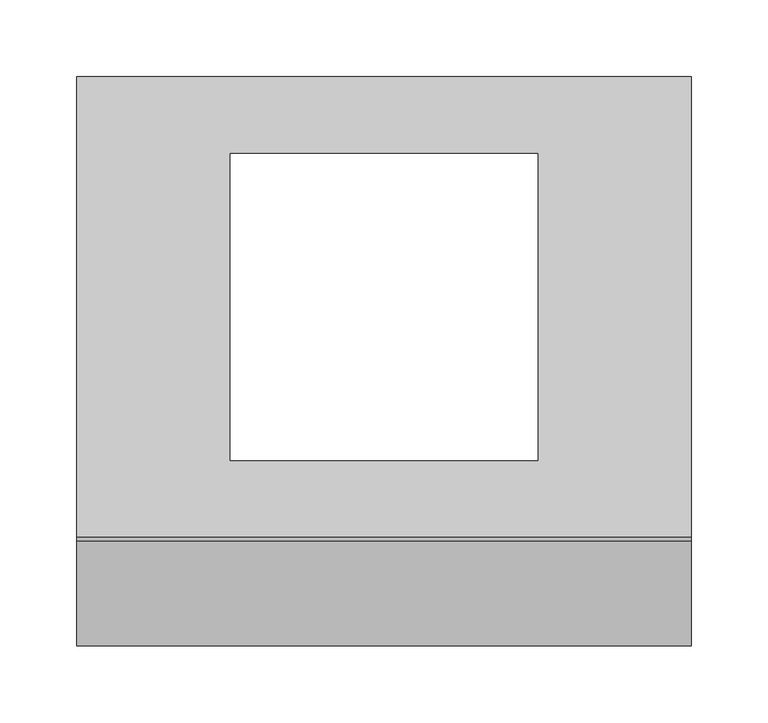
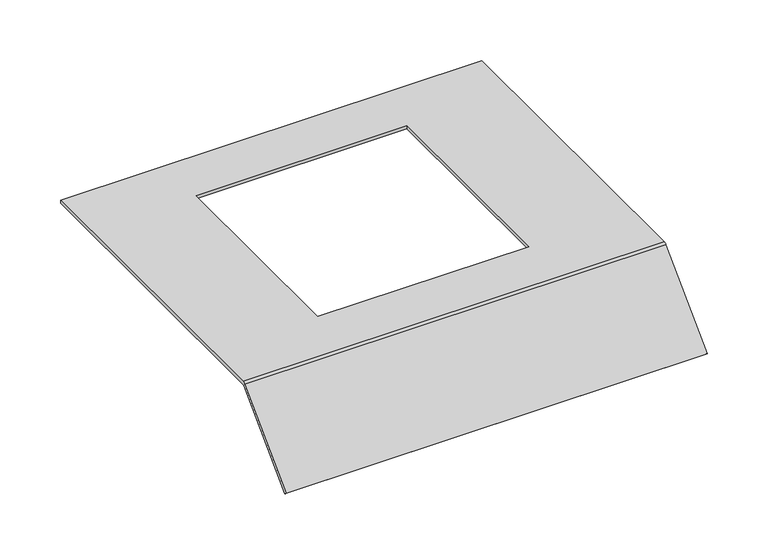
"""IFC4 building model written with IfcOpenShell, lengths in millimetres: proxy geometry, Electrical_Installation_Hager_Covers-With-Installation-Opening-Q06 : Electrical_Installation_Hager_Covers-With-Installation-Opening-Q06."""

import ifcopenshell
import ifcopenshell.guid

model = None  # the IFC model being written
_history = None  # IfcOwnerHistory: only IFC2X3 demands one
_inside = {}  # id of a spatial element -> (the spatial element, [elements in it])
_under = {}  # id of a project, library or spatial element -> (it, [spatial elements below it])
_declared = {}  # id of a project -> (the project, [libraries it declares])
_typed = {}  # id of a type object -> (the type object, [elements of that type])
_made_of = {}  # id of a material, layer set ... -> (it, [elements and type objects made of it])


def new_model(schema):
    """Start an empty IFC model of exactly this schema.

    Asked for "IFC4X3", IfcOpenShell would pick the latest addendum, in which some entities
    have other attributes; the version numbers below select the first issue.
    IFC2X3 requires an IfcOwnerHistory on every rooted entity: one is made here for all.
    """
    global model, _history
    if schema == "IFC4X3":
        model = ifcopenshell.file(schema_version=(4, 3, 0, 0))
    else:
        model = ifcopenshell.file(schema=schema)
    _inside.clear()
    _under.clear()
    _declared.clear()
    _typed.clear()
    _made_of.clear()
    _history = None
    if model.schema == "IFC2X3":
        org = make("IfcOrganization", Name="unknown")
        user = make(
            "IfcPersonAndOrganization",
            ThePerson=make("IfcPerson", FamilyName="unknown"),
            TheOrganization=org,
        )
        app = make(
            "IfcApplication",
            ApplicationDeveloper=org,
            Version="unknown",
            ApplicationFullName="unknown",
            ApplicationIdentifier="unknown",
        )
        _history = make(
            "IfcOwnerHistory",
            OwningUser=user,
            OwningApplication=app,
            ChangeAction="ADDED",
            CreationDate=0,
        )
    return model


def make(cls, **values):
    """One entity of the class cls with the attributes given. An attribute that is None is left unset."""
    return model.create_entity(
        cls, **{name: value for name, value in values.items() if value is not None}
    )


def rooted(cls, **values):
    """An entity with a GlobalId (a new one), such as an element, a storey or a relation."""
    return make(cls, GlobalId=ifcopenshell.guid.new(), OwnerHistory=_history, **values)


def si_unit(unit_type, name, prefix=None):
    """IfcSIUnit, for example si_unit("LENGTHUNIT", "METRE", prefix="MILLI")."""
    return make("IfcSIUnit", UnitType=unit_type, Prefix=prefix, Name=name)


def assignment(units):
    """IfcUnitAssignment: the units of a project."""
    return None if units is None else make("IfcUnitAssignment", Units=units)


def point(xyz):
    """IfcCartesianPoint."""
    return None if xyz is None else make("IfcCartesianPoint", Coordinates=xyz)


def direction(xyz):
    """IfcDirection."""
    return None if xyz is None else make("IfcDirection", DirectionRatios=xyz)


def frame(location, z_axis=None, x_axis=None):
    """IfcAxis2Placement3D, a coordinate frame: its origin and axes. An axis left out is left unset."""
    return make(
        "IfcAxis2Placement3D",
        Location=point(location),
        Axis=direction(z_axis),
        RefDirection=direction(x_axis),
    )


def origin():
    """The frame at (0, 0, 0) with its axes left unset."""
    return frame((0.0, 0.0, 0.0))


def place(relative_to, where):
    """IfcLocalPlacement: puts the frame where relative to a parent placement (None: the world)."""
    return make(
        "IfcLocalPlacement", PlacementRelTo=relative_to, RelativePlacement=where
    )


def context(
    kind, dimensions, precision=None, world=None, true_north=None, identifier=None
):
    """IfcGeometricRepresentationContext, for example the 3D "Model" context."""
    return make(
        "IfcGeometricRepresentationContext",
        ContextIdentifier=identifier,
        ContextType=kind,
        CoordinateSpaceDimension=dimensions,
        Precision=precision,
        WorldCoordinateSystem=world,
        TrueNorth=true_north,
    )


def project(units=None, contexts=None):
    """IfcProject with its units and contexts."""
    return rooted(
        "IfcProject",
        Name="project",
        RepresentationContexts=contexts,
        UnitsInContext=assignment(units),
    )


def spatial(cls, under=None, at=None, **own):
    """A site, building, storey or space (cls), placed at a placement, below another one or the project."""
    s = rooted(cls, ObjectPlacement=at, **own)
    if under is not None:
        _under.setdefault(under.id(), (under, []))[1].append(s)
    return s


def polyline(points):
    """IfcPolyline through the points."""
    return make("IfcPolyline", Points=[point(p) for p in points])


def circle_curve(where, radius):
    """IfcCircle in the frame where."""
    return make("IfcCircle", Position=where, Radius=radius)


def shape(context_of_items, identifier, shape_type, items):
    """IfcShapeRepresentation: the items that make up one representation, for example the "Body"."""
    return make(
        "IfcShapeRepresentation",
        ContextOfItems=context_of_items,
        RepresentationIdentifier=identifier,
        RepresentationType=shape_type,
        Items=items,
    )


def source(mapping_origin, context_of_items, identifier, shape_type, items):
    """IfcRepresentationMap: a shape defined once, which mapped items show again and again."""
    return make(
        "IfcRepresentationMap",
        MappingOrigin=mapping_origin,
        MappedRepresentation=shape(context_of_items, identifier, shape_type, items),
    )


def transform(
    local_origin,
    x_axis=None,
    y_axis=None,
    z_axis=None,
    scale=None,
    scale2=None,
    scale3=None,
    uniform=True,
):
    """IfcCartesianTransformationOperator3D, or its non-uniform kind. x_axis, y_axis, z_axis: its Axis1, 2, 3."""
    if uniform:
        return make(
            "IfcCartesianTransformationOperator3D",
            Axis1=direction(x_axis),
            Axis2=direction(y_axis),
            LocalOrigin=point(local_origin),
            Scale=scale,
            Axis3=direction(z_axis),
        )
    return make(
        "IfcCartesianTransformationOperator3DnonUniform",
        Axis1=direction(x_axis),
        Axis2=direction(y_axis),
        LocalOrigin=point(local_origin),
        Scale=scale,
        Axis3=direction(z_axis),
        Scale2=scale2,
        Scale3=scale3,
    )


def mapped(mapping_source, mapping_target):
    """IfcMappedItem: shows the shape of a source again, moved by a transform."""
    return make(
        "IfcMappedItem", MappingSource=mapping_source, MappingTarget=mapping_target
    )


def made_of(thing, what):
    """Note that an element or type object is made of a material, layer set ...; save() writes the relation."""
    if what is not None:
        _made_of.setdefault(what.id(), (what, []))[1].append(thing)
    return thing


def element(
    cls,
    number,
    at=None,
    inside=None,
    cuts=None,
    type_object=None,
    material=None,
    context=None,
    identifier="Body",
    shape_type=None,
    held_by="IfcProductDefinitionShape",
    body=None,
    shapes=None,
    **own,
):
    """One element of the class cls, such as IfcWall. Its Tag is "e" and its number.

    at: its placement. inside: the storey or other place that contains it. cuts: it is an
    opening in that element (IfcRelVoidsElement). A single representation is given by context,
    identifier, shape_type and body (its items); several are given by shapes. held_by: the class
    of the entity that holds the representations. save() writes the other relations.
    """
    e = rooted(cls, Tag="e%d" % number, ObjectPlacement=at, **own)
    if body is not None:
        shapes = [shape(context, identifier, shape_type, body)]
    if shapes is not None:
        e.Representation = make(held_by, Representations=shapes)
    if inside is not None:
        _inside.setdefault(inside.id(), (inside, []))[1].append(e)
    if cuts is not None:
        rooted(
            "IfcRelVoidsElement", RelatingBuildingElement=cuts, RelatedOpeningElement=e
        )
    if type_object is not None:
        _typed.setdefault(type_object.id(), (type_object, []))[1].append(e)
    return made_of(e, material)


def aggregate(whole, parts):
    """IfcRelAggregates: a whole, such as a stair, and the parts it consists of."""
    return rooted("IfcRelAggregates", RelatingObject=whole, RelatedObjects=parts)


def save(model, path):
    """Write the relations noted so far, then the file.

    IfcRelAggregates (storeys below a building ...), IfcRelContainedInSpatialStructure (elements
    in a storey), IfcRelDefinesByType, IfcRelAssociatesMaterial and IfcRelDeclares: one each for
    every whole, place, type object, material and project.
    """
    for whole, parts in _under.values():
        aggregate(whole, parts)
    for where, things in _inside.values():
        rooted(
            "IfcRelContainedInSpatialStructure",
            RelatedElements=things,
            RelatingStructure=where,
        )
    for kind, things in _typed.values():
        rooted("IfcRelDefinesByType", RelatedObjects=things, RelatingType=kind)
    for what, things in _made_of.values():
        rooted("IfcRelAssociatesMaterial", RelatedObjects=things, RelatingMaterial=what)
    for by, libraries in _declared.values():
        rooted("IfcRelDeclares", RelatingContext=by, RelatedDefinitions=libraries)
    model.write(path)


def plane_surface(at):
    """IfcPlane: the flat surface through the origin of the frame at, square to its z axis."""
    return make("IfcPlane", Position=at)


def cylinder_surface(at, radius):
    """IfcCylindricalSurface: all points at the distance radius from the z axis of the frame at."""
    return make("IfcCylindricalSurface", Position=at, Radius=radius)


def revolved_surface(curve, axis_point, axis_direction):
    """IfcSurfaceOfRevolution: the curve turned about the line through axis_point along axis_direction."""
    return make(
        "IfcSurfaceOfRevolution",
        SweptCurve=make("IfcArbitraryOpenProfileDef", ProfileType="CURVE", Curve=curve),
        AxisPosition=make("IfcAxis1Placement", Location=point(axis_point), Axis=direction(axis_direction)),
    )


def advanced_brep(points, edges, surfaces, faces):
    """IfcAdvancedBrep: a solid bounded by faces that lie on surfaces and meet in shared edges.

    An edge is (start, end): straight between two places in points (the first is 0);
    or (start, end, curve); or (start, end, curve, False) where it runs against its curve.
    A face is (place in surfaces, loops), or (place, loops, False) where it looks against
    its surface's normal. A loop lists edges by number (the first is 1), with a minus sign
    where the edge is run from its end to its start. The first loop is the outer one.
    """
    corners = [point(p) for p in points]
    vertices = [make("IfcVertexPoint", VertexGeometry=c) for c in corners]
    made = []
    for start, end, *more in edges:
        made.append(
            make(
                "IfcEdgeCurve",
                EdgeStart=vertices[start],
                EdgeEnd=vertices[end],
                EdgeGeometry=more[0] if more else make("IfcPolyline", Points=[corners[start], corners[end]]),
                SameSense=more[1] if len(more) > 1 else True,
            )
        )
    hull = []
    for where, loops, *sense in faces:
        bounds = []
        for j, loop in enumerate(loops):
            ring = [make("IfcOrientedEdge", EdgeElement=made[abs(k) - 1], Orientation=k > 0) for k in loop]
            bounds.append(
                make(
                    "IfcFaceOuterBound" if j == 0 else "IfcFaceBound",
                    Bound=make("IfcEdgeLoop", EdgeList=ring),
                    Orientation=True,
                )
            )
        hull.append(make("IfcAdvancedFace", Bounds=bounds, FaceSurface=surfaces[where], SameSense=sense[0] if sense else True))
    return make("IfcAdvancedBrep", Outer=make("IfcClosedShell", CfsFaces=hull))


def electrical_fixtures_cb09e402(model_context):
    return source(origin(), model_context, "Body", "AdvancedBrep", [
        advanced_brep(
        [(0.0, 150.0, 40.5), (0.0, 150.0, 37.5), (0.0, -149.8229541, 37.5), (0.0, -150.8322972, 37.0819164), (0.0, -218.712807, -30.7985934), (0.0, -220.8341273, -28.6772731), (0.0, -152.8206472, 39.336207), (0.0, -150.0110025, 40.5), (400.0, 150.0, 40.5), (400.0, -150.0110025, 40.5), (400.0, -152.8206472, 39.336207), (400.0, -220.8341273, -28.6772731), (400.0, -218.712807, -30.7985934), (400.0, -150.8322972, 37.0819164), (400.0, -149.8229541, 37.5), (400.0, 150.0, 37.5), (300.0, 100.0, 37.5), (100.0, 100.0, 37.5), (100.0, -100.0, 37.5), (300.0, -100.0, 37.5), (100.0, 100.0, 40.5), (300.0, 100.0, 40.5), (300.0, -100.0, 40.5), (100.0, -100.0, 40.5)],
        [
            (0, 1),
            (1, 2),
            (2, 3, circle_curve(frame((0.0, -149.8229541, 36.0725733), z_axis=(1.0, 0.0, 0.0), x_axis=(0.0, 1.0, 0.0)), 1.4274267)),
            (3, 4),
            (4, 5),
            (5, 6),
            (6, 7, circle_curve(frame((0.0, -150.0110025, 36.5265623), z_axis=(-1.0, 0.0, 0.0), x_axis=(0.0, 1.0, 0.0)), 3.9734377)),
            (7, 0),
            (8, 9),
            (9, 10, circle_curve(frame((400.0, -150.0110025, 36.5265623), z_axis=(1.0, 0.0, 0.0), x_axis=(0.0, 1.0, 0.0)), 3.9734377)),
            (10, 11),
            (11, 12),
            (12, 13),
            (13, 14, circle_curve(frame((400.0, -149.8229541, 36.0725733), z_axis=(-1.0, 0.0, 0.0), x_axis=(0.0, 1.0, 0.0)), 1.4274267)),
            (14, 15),
            (15, 8),
            (0, 8),
            (15, 1),
            (14, 2),
            (16, 17),
            (17, 18),
            (18, 19),
            (19, 16),
            (13, 3),
            (12, 4),
            (11, 5),
            (10, 6),
            (9, 7),
            (20, 21),
            (21, 22),
            (22, 23),
            (23, 20),
            (16, 21),
            (20, 17),
            (23, 18),
            (22, 19),
        ],
        [
            plane_surface(frame((0.0, 0.3269864, 15.0), z_axis=(-1.0, 0.0, 0.0), x_axis=(0.0, 0.0, 1.0))),
            plane_surface(frame((400.0, 0.3269864, 15.0), z_axis=(1.0, 0.0, 0.0), x_axis=(0.0, 0.0, 1.0))),
            plane_surface(frame((0.0, 150.0, 40.5), z_axis=(0.0, 1.0, 0.0), x_axis=(1.0, 0.0, 0.0))),
            plane_surface(frame((0.0, 150.0, 37.5), z_axis=(0.0, 0.0, -1.0), x_axis=(1.0, 0.0, 0.0))),
            revolved_surface(polyline([(400.0, -148.3955274, 36.0725733), (0.0, -148.3955274, 36.0725733)]), (0.0, -149.8229541, 36.0725733), (1.0, 0.0, 0.0)),
            plane_surface(frame((0.0, -150.8322972, 37.0819164), z_axis=(0.0, 0.7071067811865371, -0.7071067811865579), x_axis=(1.0, 0.0, 0.0))),
            plane_surface(frame((0.0, -218.712807, -30.7985934), z_axis=(0.0, -0.7071067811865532, -0.7071067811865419), x_axis=(1.0, 0.0, 0.0))),
            plane_surface(frame((0.0, -220.8341273, -28.6772731), z_axis=(0.0, -0.7071067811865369, 0.7071067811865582), x_axis=(1.0, 0.0, 0.0))),
            cylinder_surface(frame((0.0, -150.0110025, 36.5265623), z_axis=(-1.0, 0.0, 0.0), x_axis=(0.0, 1.0, 0.0)), 3.9734377),
            plane_surface(frame((0.0, -150.0110025, 40.5), z_axis=(0.0, 0.0, 1.0), x_axis=(1.0, 0.0, 0.0))),
            plane_surface(frame((300.0, 100.0, 250.0), z_axis=(0.0, -1.0, 0.0), x_axis=(0.0, 0.0, -1.0))),
            plane_surface(frame((100.0, 100.0, 250.0), z_axis=(1.0, 0.0, 0.0), x_axis=(0.0, 0.0, -1.0))),
            plane_surface(frame((100.0, -100.0, 250.0), z_axis=(0.0, 1.0, 0.0), x_axis=(0.0, 0.0, -1.0))),
            plane_surface(frame((300.0, -100.0, 250.0), z_axis=(-1.0, 0.0, 0.0), x_axis=(0.0, 0.0, -1.0))),
        ],
        [
            (0, [[1, 2, 3, 4, 5, 6, 7, 8]]),
            (1, [[9, 10, 11, 12, 13, 14, 15, 16]]),
            (2, [[-1, 17, -16, 18]]),
            (3, [[-2, -18, -15, 19], [20, 21, 22, 23]]),
            (4, [[-3, -19, -14, 24]]),
            (5, [[-4, -24, -13, 25]]),
            (6, [[-5, -25, -12, 26]]),
            (7, [[-6, -26, -11, 27]]),
            (8, [[-7, -27, -10, 28]]),
            (9, [[-8, -28, -9, -17], [29, 30, 31, 32]]),
            (10, [[33, -29, 34, -20]]),
            (11, [[-34, -32, 35, -21]]),
            (12, [[-35, -31, 36, -22]]),
            (13, [[-33, -23, -36, -30]]),
        ],
    ),
    ])


if __name__ == "__main__":
    model = new_model("IFC4")
    model_context = context("Model", 3, world=origin())
    ifc_project = project(units=[si_unit("LENGTHUNIT", "METRE", prefix="MILLI")], contexts=[model_context])
    site = spatial("IfcSite", under=ifc_project)
    building = spatial("IfcBuilding", under=site)
    placement = place(None, origin())
    electrical_fixtures_shape = electrical_fixtures_cb09e402(model_context)
    element("IfcBuildingElementProxy", 1, Name="Electrical_Installation_Hager_Covers-With-Installation-Opening-Q06 : Electrical_Installation_Hager_Covers-With-Installation-Opening-Q06", ObjectType="Electrical_Installation_Hager_Covers-With-Installation-Opening-Q06 : Electrical_Installation_Hager_Covers-With-Installation-Opening-Q06", at=placement, inside=building, context=model_context, shape_type="MappedRepresentation", body=[
        mapped(electrical_fixtures_shape, transform((0.0, 0.0, 0.0), x_axis=(1.0, 0.0, 0.0), y_axis=(0.0, 1.0, 0.0), z_axis=(0.0, 0.0, 1.0))),
    ])
    save(model, "model.ifc")
